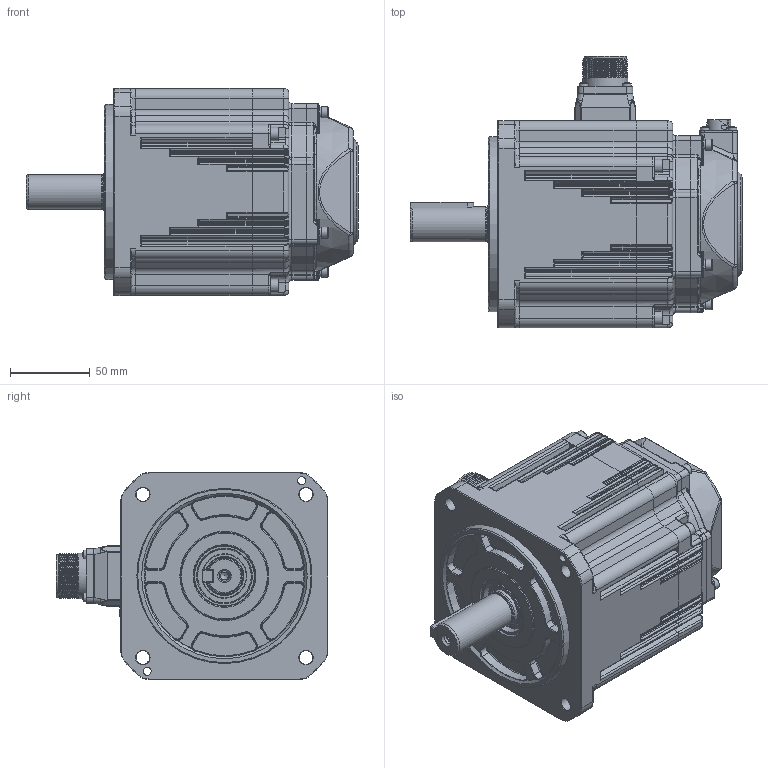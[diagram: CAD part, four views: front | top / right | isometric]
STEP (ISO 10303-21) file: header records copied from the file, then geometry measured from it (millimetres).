
FILE_DESCRIPTION (( 'STEP AP203' ), '1' );
FILE_NAME ('俋倛芞ACM2M-1309B.STEP', '2023-01-10T03:40:02', ( '' ), ( '' ), 'SwSTEP 2.0', 'SolidWorks 2021', '' );
FILE_SCHEMA (( 'CONFIG_CONTROL_DESIGN' ));
Length unit declared in the file: millimetre
Products named in the file (11): 萇埭脣釱蹟隊_M3℅10; 130蛌粣09-XX 粣扥耳22 40Cr DC RoHS_LX晤鎢ん; 130前端盖0.85、1.3、1.8_成品-0.85; 130瑤脣假蚾釱; 俋倛芞ACM2M-1309B; 航插动力接插件 4芯 SZ RoHS_6芯; C型平键8×7×45螺纹拆卸型; 130价陬綴傷裔 詢39.3 ADC12 LM RoHS_傖こ; ﾓﾍｷ筌ｻTC｣ｻ24｡ﾁ38｡ﾁ7｣ｻSOG; 2M-编码盖+插座+螺钉; 綴傷裔蹟隊_M5℅20
Assembly tree (16 placements, depth 2):
  俋倛芞ACM2M-1309B
    130前端盖0.85、1.3、1.8_成品-0.85
    130蛌粣09-XX 粣扥耳22 40Cr DC RoHS_LX晤鎢ん
    130价陬綴傷裔 詢39.3 ADC12 LM RoHS_傖こ
    綴傷裔蹟隊_M5℅20  x4
    130瑤脣假蚾釱
    航插动力接插件 4芯 SZ RoHS_6芯
    萇埭脣釱蹟隊_M3℅10  x4
    ﾓﾍｷ筌ｻTC｣ｻ24｡ﾁ38｡ﾁ7｣ｻSOG
    C型平键8×7×45螺纹拆卸型
    2M-编码盖+插座+螺钉
Bounding box: 208.5 x 170.7 x 130 mm (x, y, z)
Volume: 2139484.6 mm3; surface area: 209205.6 mm2
Topology: 34 solids, 46 shells, 3131 faces, 8024 edges, 4978 vertices
Faces by surface type: plane 1256, cylinder 915, torus 454, bspline 405, cone 76, sphere 25
Full cylindrical faces by diameter (mm): 0.75 x10, 1.007 x10, 1.5 x9, 1.6 x2, 1.68 x2, 2.2 x1, 2.4 x4, 2.48 x4, 2.5 x8, 2.598 x8, 2.6 x1, 3 x8, 3.2 x10, 3.3 x5, 3.5 x4, 3.9 x4, 4 x4, 4.2 x4, 4.5 x8, 5 x7, 5.5 x4, 5.6 x8, 6.4 x1, 7 x4, 8.5 x8, 9 x4, 11.8 x1, 13 x1, 13.2 x1, 15.2 x1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
Entity records: 119538 total; most frequent: CARTESIAN_POINT 50949, ORIENTED_EDGE 14344, DIRECTION 13259, EDGE_CURVE 7172, AXIS2_PLACEMENT_3D 5059, VERTEX_POINT 4649, EDGE_LOOP 3453, FACE_OUTER_BOUND 3191
